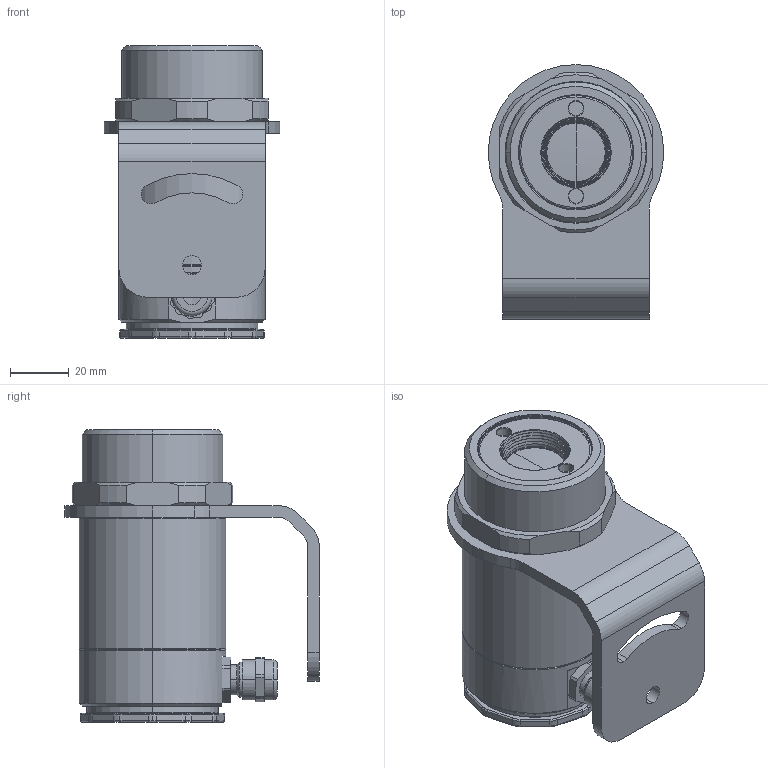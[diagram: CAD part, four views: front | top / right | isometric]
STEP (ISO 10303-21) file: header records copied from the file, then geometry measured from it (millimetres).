
FILE_DESCRIPTION((''),'2;1');
FILE_NAME('MESSKOPF-CT-TM-FB-CT-LEERER_ASM','2009-09-03T',('11000065'),(''),'PRO/ENGINEER BY PARAMETRIC TECHNOLOGY CORPORATION, 2008490','PRO/ENGINEER BY PARAMETRIC TECHNOLOGY CORPORATION, 2008490','');
FILE_SCHEMA(('AUTOMOTIVE_DESIGN { 1 2 10303 214 0 1 1 1 }'));
Length unit declared in the file: millimetre
Products named in the file (38): ASM0001_ASM_ASM; NONE-89805; ASM0002_ASM_ASM; NONE-88254; ASM0003_ASM_ASM; NONE-87426; ASM0004_ASM_ASM; NONE-95336; ASM0005_ASM_ASM; NONE-96286; ASM0006_ASM_ASM; NONE-73829; ASM0007_ASM_ASM; NONE-73861; ASM0008_ASM_ASM; NONE-83928; ASM0010_ASM_ASM; 61202_SENKSCHRAUBE_KS_DIN_965_A_ASM; 61245_FEDERSCHEIBE_DIN_137_A2_S_ASM; NONE-65370; ASM0012_ASM_ASM; NONE-70615; ASM0013_ASM_ASM; ASM0011_ASM_ASM; NONE-66387; ASM0018_ASM_ASM; NONE-98177; ASM0019_ASM_ASM; NONE-95248; ASM0020_ASM_ASM; NONE-70460; ASM0021_ASM_ASM; NONE-95650; ASM0022_ASM_ASM; ASM0009_ASM_ASM; 9C305_MESSKOPFGEH_USE-CT75_ANY__ASM; MESSKOPF-CT-TM-FB-CT_ASM_ASM; MESSKOPF-CT-TM-FB-CT-LEERER_ASM
Assembly tree (54 placements, depth 7):
  MESSKOPF-CT-TM-FB-CT-LEERER_ASM
    MESSKOPF-CT-TM-FB-CT_ASM_ASM
      9C305_MESSKOPFGEH_USE-CT75_ANY__ASM
        ASM0001_ASM_ASM
        ASM0002_ASM_ASM
          NONE-89805
        ASM0003_ASM_ASM
          NONE-88254
        ASM0004_ASM_ASM
          NONE-87426
        ASM0005_ASM_ASM
          NONE-95336
        ASM0006_ASM_ASM
          NONE-96286
        ASM0007_ASM_ASM
          NONE-73829
        ASM0008_ASM_ASM
          NONE-73861
        ASM0009_ASM_ASM
          ASM0010_ASM_ASM  x2
            NONE-83928
          61202_SENKSCHRAUBE_KS_DIN_965_A_ASM  x6
          61245_FEDERSCHEIBE_DIN_137_A2_S_ASM  x6
          ASM0011_ASM_ASM
            ASM0012_ASM_ASM  x4
              NONE-65370
            ASM0013_ASM_ASM
              NONE-70615
          ASM0018_ASM_ASM
            NONE-66387
          ASM0019_ASM_ASM  x2
            NONE-98177
          ASM0020_ASM_ASM
            NONE-95248
          ASM0007_ASM_ASM
            NONE-73829
          ASM0021_ASM_ASM  x2
            NONE-70460
          ASM0022_ASM_ASM
            NONE-95650
Bounding box: 60 x 87 x 100 mm (x, y, z)
Volume: 79479.8 mm3; surface area: 64995.1 mm2
Topology: 22 solids, 22 shells, 1277 faces, 3413 edges, 2205 vertices
Faces by surface type: plane 572, cylinder 412, cone 202, torus 89, sphere 2
Entity records: 27423 total; most frequent: CARTESIAN_POINT 5528, DIRECTION 4195, ORIENTED_EDGE 3742, EDGE_CURVE 1871, AXIS2_PLACEMENT_3D 1704, VERTEX_POINT 1197, EDGE_LOOP 828, CIRCLE 824
